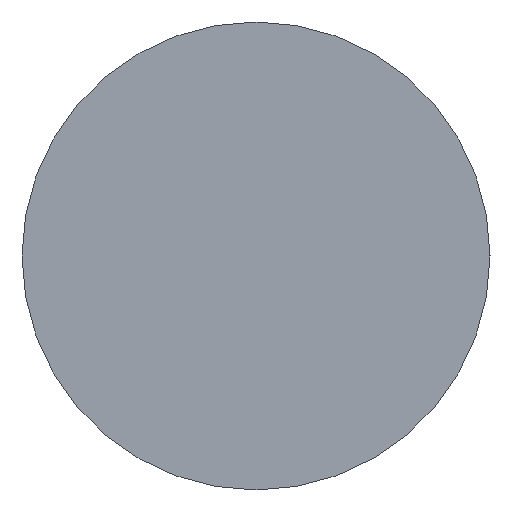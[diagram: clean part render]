
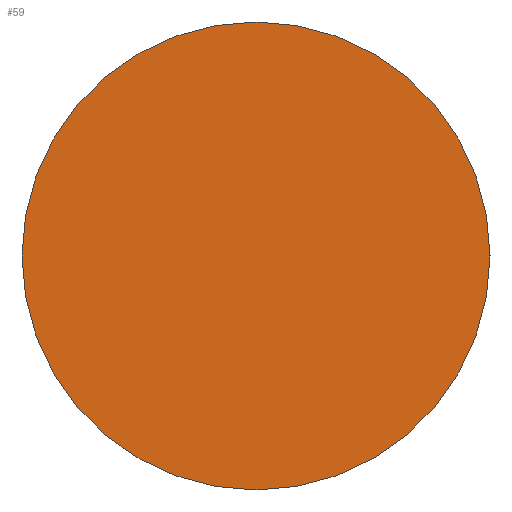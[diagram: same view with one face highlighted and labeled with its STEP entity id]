
A CAD part, left-side view. The second image highlights one B-rep face of the part: STEP entity #59.
In plain terms, the highlighted planar face has unit normal (-1, 0, 0).
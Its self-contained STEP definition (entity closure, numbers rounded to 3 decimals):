
#31 = VERTEX_POINT('',#32);
#32 = CARTESIAN_POINT('',(-6.35,0.,0.25));
#38 = EDGE_CURVE('',#31,#31,#39,.T.);
#39 = CIRCLE('',#40,0.25);
#40 = AXIS2_PLACEMENT_3D('',#41,#42,#43);
#41 = CARTESIAN_POINT('',(-6.35,0.,0.));
#42 = DIRECTION('',(1.,0.,0.));
#43 = DIRECTION('',(-0.,0.,1.));
#59 = ADVANCED_FACE('',(#60),#63,.F.);
#60 = FACE_BOUND('',#61,.T.);
#61 = EDGE_LOOP('',(#62));
#62 = ORIENTED_EDGE('',*,*,#38,.F.);
#63 = PLANE('',#64);
#64 = AXIS2_PLACEMENT_3D('',#65,#66,#67);
#65 = CARTESIAN_POINT('',(-6.35,0.,0.));
#66 = DIRECTION('',(1.,0.,0.));
#67 = DIRECTION('',(-0.,0.,1.));
